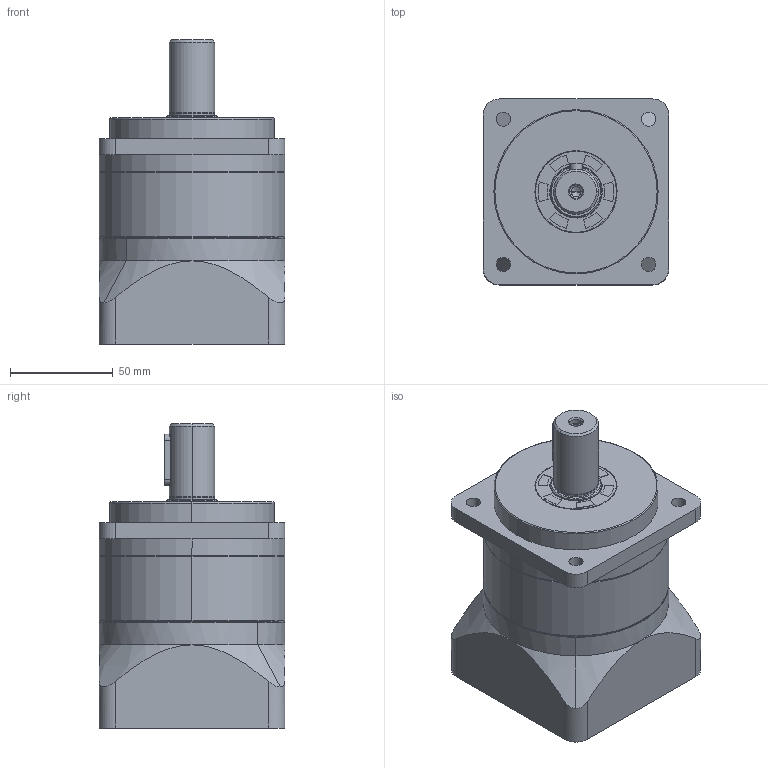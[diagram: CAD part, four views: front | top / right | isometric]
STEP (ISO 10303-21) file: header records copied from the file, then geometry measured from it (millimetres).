
FILE_DESCRIPTION (( 'STEP AP203' ), '1' );
FILE_NAME ('SA90-L1(14-60-98.7-M6).STEP', '2021-12-14T05:32:11', ( '' ), ( '' ), 'SwSTEP 2.0', 'SolidWorks 2016', '' );
FILE_SCHEMA (( 'CONFIG_CONTROL_DESIGN' ));
Length unit declared in the file: millimetre
Products named in the file (10): SN90-25x40x5; SN90-(19); SN90-(60-98.7-M6); SN90-(22x37-6x25); SA90-L1(14-60-98.7-M6); 90-(o19-14x26); SN90-48x27x15-M6; SA90-(80x10-100-7); SN90; DP90
Assembly tree (9 placements, depth 2):
  SA90-L1(14-60-98.7-M6)
    SA90-(80x10-100-7)
    SN90-25x40x5
    SN90-(22x37-6x25)
    SN90
    DP90
    SN90-(60-98.7-M6)
    SN90-(19)
    SN90-48x27x15-M6
    90-(o19-14x26)
Bounding box: 90.5 x 90.5 x 148.1 mm (x, y, z)
Volume: 706167.9 mm3; surface area: 135747.9 mm2
Topology: 11 solids, 11 shells, 448 faces, 1151 edges, 733 vertices
Faces by surface type: cylinder 248, plane 117, cone 47, bspline 30, torus 6
Entity records: 31630 total; most frequent: CARTESIAN_POINT 20094, ORIENTED_EDGE 2258, DIRECTION 2146, EDGE_CURVE 1129, AXIS2_PLACEMENT_3D 842, VERTEX_POINT 733, EDGE_LOOP 538, LINE 462
